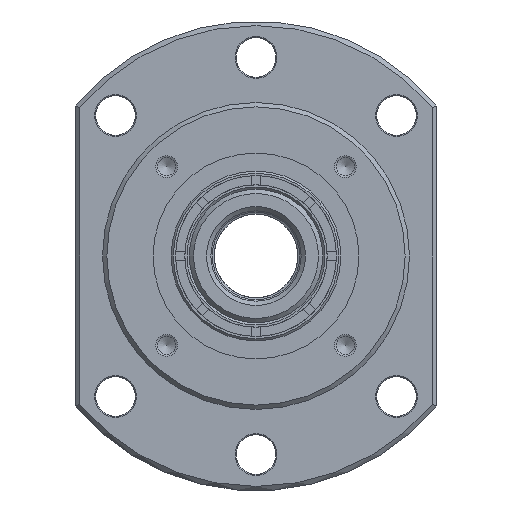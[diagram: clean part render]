
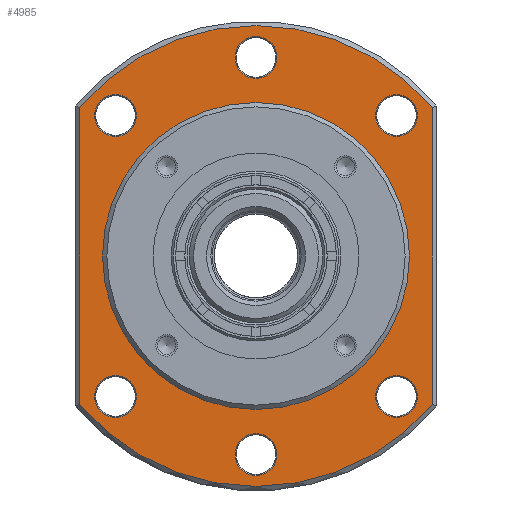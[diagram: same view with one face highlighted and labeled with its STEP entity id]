
A CAD part, left-side view. The second image highlights one B-rep face of the part: STEP entity #4985.
In plain terms, the highlighted planar face has unit normal (-1, 0, 0).
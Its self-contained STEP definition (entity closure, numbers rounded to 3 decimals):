
#3467=EDGE_CURVE('',#9740,#9741,#9742,.T.);
#4095=EDGE_CURVE('',#9740,#10810,#10811,.T.);
#4339=EDGE_CURVE('',#11222,#11222,#11223,.T.);
#4985=ADVANCED_FACE('',(#12255,#12256,#12257,#12258,#12259,#12260,#12261,#12262),#12263,.T.);
#5055=EDGE_CURVE('',#12370,#9741,#12371,.T.);
#6395=EDGE_CURVE('',#14476,#14476,#14477,.T.);
#6709=EDGE_CURVE('',#12370,#10810,#14922,.T.);
#6871=EDGE_CURVE('',#15144,#15144,#15145,.T.);
#6931=EDGE_CURVE('',#15233,#15233,#15234,.T.);
#7725=EDGE_CURVE('',#16375,#16375,#16376,.T.);
#8279=EDGE_CURVE('',#17156,#17156,#17157,.T.);
#8719=EDGE_CURVE('',#17794,#17794,#17795,.T.);
#9740=VERTEX_POINT('',#19460);
#9741=VERTEX_POINT('',#19461);
#9742=CIRCLE('',#19462,63.8);
#10810=VERTEX_POINT('',#21234);
#10811=LINE('',#21235,#21236);
#11222=VERTEX_POINT('',#21835);
#11223=CIRCLE('',#21836,5.8);
#12255=FACE_OUTER_BOUND('',#23564,.T.);
#12256=FACE_BOUND('',#23565,.T.);
#12257=FACE_BOUND('',#23566,.T.);
#12258=FACE_BOUND('',#23567,.T.);
#12259=FACE_BOUND('',#23568,.T.);
#12260=FACE_BOUND('',#23569,.T.);
#12261=FACE_BOUND('',#23570,.T.);
#12262=FACE_BOUND('',#23571,.T.);
#12263=PLANE('',#23572);
#12370=VERTEX_POINT('',#23757);
#12371=LINE('',#23758,#23759);
#14476=VERTEX_POINT('',#27549);
#14477=CIRCLE('',#27550,5.8);
#14922=CIRCLE('',#28400,63.8);
#15144=VERTEX_POINT('',#28913);
#15145=CIRCLE('',#28914,5.8);
#15233=VERTEX_POINT('',#29054);
#15234=CIRCLE('',#29055,41.9);
#16375=VERTEX_POINT('',#31101);
#16376=CIRCLE('',#31102,5.8);
#17156=VERTEX_POINT('',#32547);
#17157=CIRCLE('',#32548,5.8);
#17794=VERTEX_POINT('',#33609);
#17795=CIRCLE('',#33610,5.8);
#19460=CARTESIAN_POINT('',(33.0,-48.8,-41.097));
#19461=CARTESIAN_POINT('',(33.0,48.8,-41.097));
#19462=AXIS2_PLACEMENT_3D('',#34781,#34782,#34783);
#21234=CARTESIAN_POINT('',(33.0,-48.8,41.097));
#21235=CARTESIAN_POINT('',(33.0,-48.8,-6.075));
#21236=VECTOR('',#36053,1.0);
#21835=CARTESIAN_POINT('',(33.0,-42.992,-42.992));
#21836=AXIS2_PLACEMENT_3D('',#36490,#36491,#36492);
#23564=EDGE_LOOP('',(#37706,#37707,#37708,#37709));
#23565=EDGE_LOOP('',(#37710));
#23566=EDGE_LOOP('',(#37711));
#23567=EDGE_LOOP('',(#37712));
#23568=EDGE_LOOP('',(#37713));
#23569=EDGE_LOOP('',(#37714));
#23570=EDGE_LOOP('',(#37715));
#23571=EDGE_LOOP('',(#37716));
#23572=AXIS2_PLACEMENT_3D('',#37717,#37718,#37719);
#23757=CARTESIAN_POINT('',(33.0,48.8,41.097));
#23758=CARTESIAN_POINT('',(33.0,48.8,58.925));
#23759=VECTOR('',#37815,1.0);
#27549=CARTESIAN_POINT('',(33.0,0.0,-60.8));
#27550=AXIS2_PLACEMENT_3D('',#40414,#40415,#40416);
#28400=AXIS2_PLACEMENT_3D('',#40922,#40923,#40924);
#28913=CARTESIAN_POINT('',(33.0,0.0,49.2));
#28914=AXIS2_PLACEMENT_3D('',#41175,#41176,#41177);
#29054=CARTESIAN_POINT('',(33.0,0.0,41.9));
#29055=AXIS2_PLACEMENT_3D('',#41282,#41283,#41284);
#31101=CARTESIAN_POINT('',(33.0,34.79,34.79));
#31102=AXIS2_PLACEMENT_3D('',#42863,#42864,#42865);
#32547=CARTESIAN_POINT('',(33.0,42.992,-42.992));
#32548=AXIS2_PLACEMENT_3D('',#43908,#43909,#43910);
#33609=CARTESIAN_POINT('',(33.0,-34.79,34.79));
#33610=AXIS2_PLACEMENT_3D('',#44848,#44849,#44850);
#34781=CARTESIAN_POINT('',(33.0,0.0,0.0));
#34782=DIRECTION('',(1.0,0.0,-0.0));
#34783=DIRECTION('',(0.0,0.0,1.0));
#36053=DIRECTION('',(0.0,0.0,1.0));
#36490=CARTESIAN_POINT('',(33.0,-38.891,-38.891));
#36491=DIRECTION('',(1.0,0.0,0.0));
#36492=DIRECTION('',(0.0,-0.707,-0.707));
#37706=ORIENTED_EDGE('',*,*,#5055,.T.);
#37707=ORIENTED_EDGE('',*,*,#3467,.F.);
#37708=ORIENTED_EDGE('',*,*,#4095,.T.);
#37709=ORIENTED_EDGE('',*,*,#6709,.F.);
#37710=ORIENTED_EDGE('',*,*,#8279,.T.);
#37711=ORIENTED_EDGE('',*,*,#6395,.T.);
#37712=ORIENTED_EDGE('',*,*,#4339,.T.);
#37713=ORIENTED_EDGE('',*,*,#7725,.T.);
#37714=ORIENTED_EDGE('',*,*,#6871,.T.);
#37715=ORIENTED_EDGE('',*,*,#8719,.T.);
#37716=ORIENTED_EDGE('',*,*,#6931,.T.);
#37717=CARTESIAN_POINT('',(33.0,0.0,52.85));
#37718=DIRECTION('',(-1.0,0.0,0.0));
#37719=DIRECTION('',(0.0,0.0,1.0));
#37815=DIRECTION('',(0.0,0.0,-1.0));
#40414=CARTESIAN_POINT('',(33.0,0.0,-55.0));
#40415=DIRECTION('',(1.0,0.0,0.0));
#40416=DIRECTION('',(0.0,0.0,-1.0));
#40922=CARTESIAN_POINT('',(33.0,0.0,0.0));
#40923=DIRECTION('',(1.0,0.0,-0.0));
#40924=DIRECTION('',(0.0,0.0,1.0));
#41175=CARTESIAN_POINT('',(33.0,0.0,55.0));
#41176=DIRECTION('',(1.0,0.0,0.0));
#41177=DIRECTION('',(0.0,0.0,-1.0));
#41282=CARTESIAN_POINT('',(33.0,0.0,0.0));
#41283=DIRECTION('',(1.0,0.0,-0.0));
#41284=DIRECTION('',(0.0,0.0,1.0));
#42863=CARTESIAN_POINT('',(33.0,38.891,38.891));
#42864=DIRECTION('',(1.0,0.0,0.0));
#42865=DIRECTION('',(0.0,-0.707,-0.707));
#43908=CARTESIAN_POINT('',(33.0,38.891,-38.891));
#43909=DIRECTION('',(1.0,0.0,0.0));
#43910=DIRECTION('',(0.0,0.707,-0.707));
#44848=CARTESIAN_POINT('',(33.0,-38.891,38.891));
#44849=DIRECTION('',(1.0,0.0,0.0));
#44850=DIRECTION('',(0.0,0.707,-0.707));
